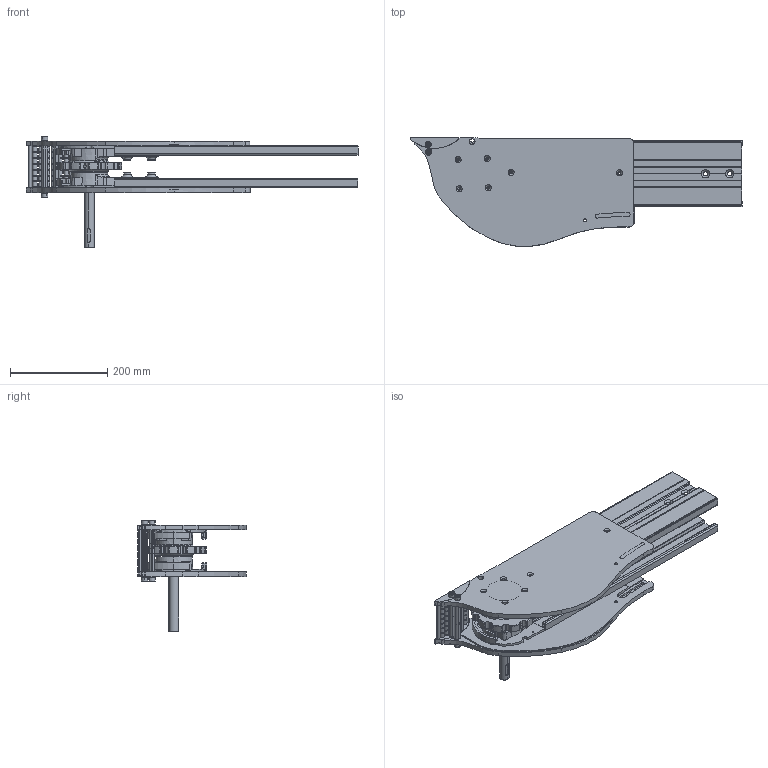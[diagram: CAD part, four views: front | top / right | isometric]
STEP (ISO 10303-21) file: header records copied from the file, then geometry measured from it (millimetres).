
FILE_DESCRIPTION (( 'STEP AP214' ), '1' );
FILE_NAME ('R2M-G20galets escamotables.STEP', '2011-06-28T12:34:20', ( '.' ), ( '' ), 'SwSTEP 2.0', 'SolidWorks 2010', '' );
FILE_SCHEMA (( 'AUTOMOTIVE_DESIGN' ));
Length unit declared in the file: millimetre
Products named in the file (17): GT_6-10; AXE-R2_R2M20; R-CMG-escamotable_A droite ouvert; R2M-G20galets escamotables; galet escamotable_Default; Emile_Maurin_23210_V_CHC_8x50_EF___cl_8_8___EN_ISO_4762_DIN_912_Emile Maurin 23210 V.CHC 8x50 EF   cl 8,8   EN ISO 4762 DIN 912; R-CMG-escamotable_A gauche fermé; 1-2 chape; R2FS pour R2M_à droite; R2FS pour R2M_à gauche; Carter sous chaine_Robur 2 à 120° (D); 3-880-11N_ROBUR; Roulement type BT 30x62x20; AF12-8_86; AXE_D6 (transfert à galets)_AXE_D6-102_INOX; R2PG-HD1000_R2 std sup; Carter sous chaine_Robur 2 à 120° (G)
Assembly tree (79 placements, depth 2):
  R2M-G20galets escamotables
    GT_6-10  x46
    Emile_Maurin_23210_V_CHC_8x50_EF___cl_8_8___EN_ISO_4762_DIN_912_Emile Maurin 23210 V.CHC 8x50 EF   cl 8,8   EN ISO 4762 DIN 912  x4
    AXE_D6 (transfert à galets)_AXE_D6-102_INOX  x8
    3-880-11N_ROBUR
    AF12-8_86  x3
    R2PG-HD1000_R2 std sup  x4
    AXE-R2_R2M20
    Roulement type BT 30x62x20  x2
    galet escamotable_Default  x2
    R-CMG-escamotable_A droite ouvert
    R2FS pour R2M_à gauche
    1-2 chape  x2
    R-CMG-escamotable_A gauche fermé
    Carter sous chaine_Robur 2 à 120° (G)
    Carter sous chaine_Robur 2 à 120° (D)
    R2FS pour R2M_à droite
Bounding box: 683.03 x 223.82 x 229.5 mm (x, y, z)
Volume: 3168283.1 mm3; surface area: 1123164.7 mm2
Topology: 79 solids, 79 shells, 1718 faces, 4703 edges, 3069 vertices
Faces by surface type: cylinder 769, plane 618, cone 179, torus 102, sphere 48, bspline 2
Entity records: 34251 total; most frequent: CARTESIAN_POINT 7796, DIRECTION 5511, ORIENTED_EDGE 5332, EDGE_CURVE 2666, AXIS2_PLACEMENT_3D 2136, VERTEX_POINT 1751, VECTOR 1239, LINE 1239
